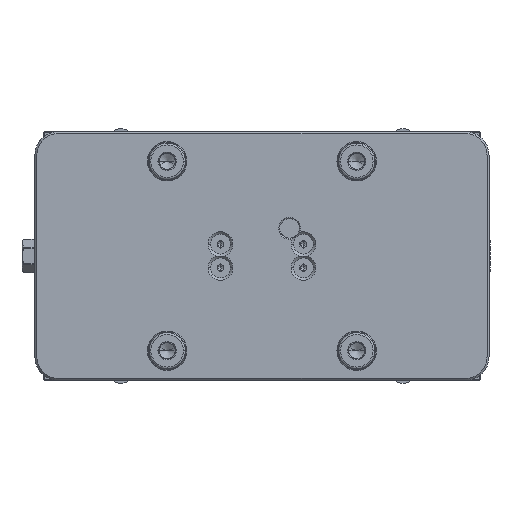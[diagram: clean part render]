
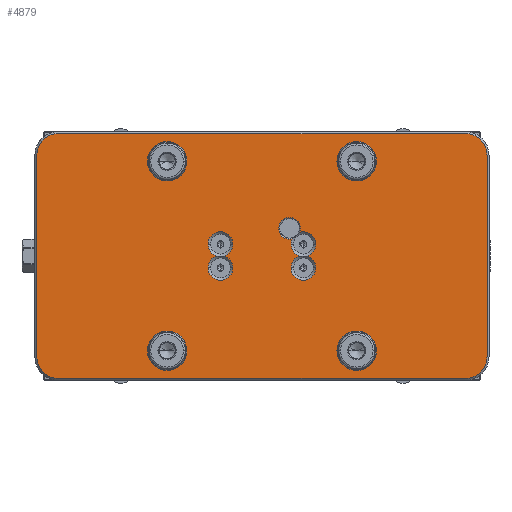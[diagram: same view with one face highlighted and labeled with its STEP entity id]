
A CAD part, front view. The second image highlights one B-rep face of the part: STEP entity #4879.
In plain terms, the highlighted planar face has unit normal (0, -1, 0).
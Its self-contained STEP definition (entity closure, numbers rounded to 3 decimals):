
#2=CARTESIAN_POINT('',(48.,0.,-48.));
#3=DIRECTION('',(0.,1.,0.));
#4=DIRECTION('',(1.,0.,0.));
#5=AXIS2_PLACEMENT_3D('',#2,#3,#4);
#7=CARTESIAN_POINT('',(48.,0.,-48.));
#8=DIRECTION('',(0.,1.,0.));
#9=DIRECTION('',(-1.,0.,0.));
#10=AXIS2_PLACEMENT_3D('',#7,#8,#9);
#12=CARTESIAN_POINT('',(48.,0.,48.));
#13=DIRECTION('',(0.,1.,0.));
#14=DIRECTION('',(1.,0.,0.));
#15=AXIS2_PLACEMENT_3D('',#12,#13,#14);
#17=CARTESIAN_POINT('',(48.,0.,48.));
#18=DIRECTION('',(0.,1.,0.));
#19=DIRECTION('',(-1.,0.,0.));
#20=AXIS2_PLACEMENT_3D('',#17,#18,#19);
#22=CARTESIAN_POINT('',(-48.,0.,-48.));
#23=DIRECTION('',(0.,1.,0.));
#24=DIRECTION('',(1.,0.,0.));
#25=AXIS2_PLACEMENT_3D('',#22,#23,#24);
#27=CARTESIAN_POINT('',(-48.,0.,-48.));
#28=DIRECTION('',(0.,1.,0.));
#29=DIRECTION('',(-1.,0.,0.));
#30=AXIS2_PLACEMENT_3D('',#27,#28,#29);
#32=CARTESIAN_POINT('',(-48.,0.,48.));
#33=DIRECTION('',(0.,1.,0.));
#34=DIRECTION('',(1.,0.,0.));
#35=AXIS2_PLACEMENT_3D('',#32,#33,#34);
#37=CARTESIAN_POINT('',(-48.,0.,48.));
#38=DIRECTION('',(0.,1.,0.));
#39=DIRECTION('',(-1.,0.,0.));
#40=AXIS2_PLACEMENT_3D('',#37,#38,#39);
#42=CARTESIAN_POINT('',(-21.,0.,-6.));
#43=DIRECTION('',(0.,-1.,0.));
#44=DIRECTION('',(-1.,0.,0.));
#45=AXIS2_PLACEMENT_3D('',#42,#43,#44);
#47=CARTESIAN_POINT('',(-21.,0.,-6.));
#48=DIRECTION('',(0.,-1.,0.));
#49=DIRECTION('',(1.,0.,0.));
#50=AXIS2_PLACEMENT_3D('',#47,#48,#49);
#52=CARTESIAN_POINT('',(-21.,0.,6.));
#53=DIRECTION('',(0.,-1.,0.));
#54=DIRECTION('',(0.28,0.,-0.96));
#55=AXIS2_PLACEMENT_3D('',#52,#53,#54);
#57=CARTESIAN_POINT('',(-21.,0.,6.));
#58=DIRECTION('',(0.,-1.,0.));
#59=DIRECTION('',(1.,0.,0.));
#60=AXIS2_PLACEMENT_3D('',#57,#58,#59);
#62=CARTESIAN_POINT('',(-21.,0.,6.));
#63=DIRECTION('',(0.,-1.,0.));
#64=DIRECTION('',(-1.,0.,0.));
#65=AXIS2_PLACEMENT_3D('',#62,#63,#64);
#67=CARTESIAN_POINT('',(-21.,0.,-6.));
#68=DIRECTION('',(0.,-1.,0.));
#69=DIRECTION('',(-0.28,0.,0.96));
#70=AXIS2_PLACEMENT_3D('',#67,#68,#69);
#72=CARTESIAN_POINT('',(21.,0.,-6.));
#73=DIRECTION('',(0.,-1.,0.));
#74=DIRECTION('',(-1.,0.,0.));
#75=AXIS2_PLACEMENT_3D('',#72,#73,#74);
#77=CARTESIAN_POINT('',(21.,0.,-6.));
#78=DIRECTION('',(0.,-1.,0.));
#79=DIRECTION('',(1.,0.,0.));
#80=AXIS2_PLACEMENT_3D('',#77,#78,#79);
#82=CARTESIAN_POINT('',(21.,0.,6.));
#83=DIRECTION('',(0.,-1.,0.));
#84=DIRECTION('',(0.28,0.,-0.96));
#85=AXIS2_PLACEMENT_3D('',#82,#83,#84);
#87=CARTESIAN_POINT('',(21.,0.,6.));
#88=DIRECTION('',(0.,-1.,0.));
#89=DIRECTION('',(1.,0.,0.));
#90=AXIS2_PLACEMENT_3D('',#87,#88,#89);
#92=CARTESIAN_POINT('',(21.,0.,6.));
#93=DIRECTION('',(0.,-1.,0.));
#94=DIRECTION('',(-0.904,0.,0.427));
#95=AXIS2_PLACEMENT_3D('',#92,#93,#94);
#97=CARTESIAN_POINT('',(21.,0.,6.));
#98=DIRECTION('',(0.,-1.,0.));
#99=DIRECTION('',(-1.,0.,0.));
#100=AXIS2_PLACEMENT_3D('',#97,#98,#99);
#102=CARTESIAN_POINT('',(21.,0.,-6.));
#103=DIRECTION('',(0.,-1.,0.));
#104=DIRECTION('',(-0.28,0.,0.96));
#105=AXIS2_PLACEMENT_3D('',#102,#103,#104);
#107=DIRECTION('',(0.,0.,-1.));
#108=VECTOR('',#107,102.);
#109=CARTESIAN_POINT('',(-114.,0.,
51.));
#110=LINE('',#109,#108);
#111=CARTESIAN_POINT('',(-103.,0.,51.));
#112=DIRECTION('',(0.,-1.,0.));
#113=DIRECTION('',(0.,0.,1.));
#114=AXIS2_PLACEMENT_3D('',#111,#112,#113);
#116=DIRECTION('',(-1.,0.,0.));
#117=VECTOR('',#116,206.);
#118=CARTESIAN_POINT('',(103.,0.,62.));
#119=LINE('',#118,#117);
#120=CARTESIAN_POINT('',(103.,0.,51.));
#121=DIRECTION('',(0.,-1.,0.));
#122=DIRECTION('',(1.,0.,0.));
#123=AXIS2_PLACEMENT_3D('',#120,#121,#122);
#125=DIRECTION('',(0.,0.,1.));
#126=VECTOR('',#125,102.);
#127=CARTESIAN_POINT('',(114.,0.,
-51.));
#128=LINE('',#127,#126);
#129=CARTESIAN_POINT('',(103.,0.,-51.));
#130=DIRECTION('',(0.,-1.,0.));
#131=DIRECTION('',(0.,0.,-1.));
#132=AXIS2_PLACEMENT_3D('',#129,#130,#131);
#134=DIRECTION('',(1.,0.,0.));
#135=VECTOR('',#134,206.);
#136=CARTESIAN_POINT('',(-103.,0.,
-62.));
#137=LINE('',#136,#135);
#138=CARTESIAN_POINT('',(-103.,0.,-51.));
#139=DIRECTION('',(0.,-1.,0.));
#140=DIRECTION('',(-1.,0.,0.));
#141=AXIS2_PLACEMENT_3D('',#138,#139,#140);
#692=CARTESIAN_POINT('',(14.,0.,14.));
#693=DIRECTION('',(0.,1.,0.));
#694=DIRECTION('',(0.245,0.,-0.97));
#695=AXIS2_PLACEMENT_3D('',#692,#693,#694);
#3854=CARTESIAN_POINT('',(56.5,0.,-48.));
#3855=CARTESIAN_POINT('',(39.5,0.,-48.));
#3856=VERTEX_POINT('',#3854);
#3857=VERTEX_POINT('',#3855);
#3862=CARTESIAN_POINT('',(56.5,0.,48.));
#3863=CARTESIAN_POINT('',(39.5,0.,48.));
#3864=VERTEX_POINT('',#3862);
#3865=VERTEX_POINT('',#3863);
#3870=CARTESIAN_POINT('',(-39.5,0.,-48.));
#3871=CARTESIAN_POINT('',(-56.5,0.,-48.));
#3872=VERTEX_POINT('',#3870);
#3873=VERTEX_POINT('',#3871);
#3878=CARTESIAN_POINT('',(-39.5,0.,48.));
#3879=CARTESIAN_POINT('',(-56.5,0.,48.));
#3880=VERTEX_POINT('',#3878);
#3881=VERTEX_POINT('',#3879);
#4082=CARTESIAN_POINT('',(-14.75,0.,6.));
#4083=CARTESIAN_POINT('',(-27.25,0.,6.));
#4084=VERTEX_POINT('',#4082);
#4085=VERTEX_POINT('',#4083);
#4090=CARTESIAN_POINT('',(27.25,0.,6.));
#4091=CARTESIAN_POINT('',(19.106,0.,11.956));
#4092=VERTEX_POINT('',#4090);
#4093=VERTEX_POINT('',#4091);
#4094=CARTESIAN_POINT('',(15.348,0.,8.668));
#4095=CARTESIAN_POINT('',(14.75,0.,6.));
#4096=VERTEX_POINT('',#4094);
#4097=VERTEX_POINT('',#4095);
#4104=CARTESIAN_POINT('',(-27.25,0.,-6.));
#4105=CARTESIAN_POINT('',(-14.75,0.,-6.));
#4106=VERTEX_POINT('',#4104);
#4107=VERTEX_POINT('',#4105);
#4108=CARTESIAN_POINT('',(-19.25,0.,0.));
#4109=VERTEX_POINT('',#4108);
#4110=CARTESIAN_POINT('',(-22.75,0.,0.));
#4111=VERTEX_POINT('',#4110);
#4116=CARTESIAN_POINT('',(14.75,0.,-6.));
#4117=CARTESIAN_POINT('',(27.25,0.,-6.));
#4118=VERTEX_POINT('',#4116);
#4119=VERTEX_POINT('',#4117);
#4120=CARTESIAN_POINT('',(22.75,0.,0.));
#4121=VERTEX_POINT('',#4120);
#4122=CARTESIAN_POINT('',(19.25,0.,0.));
#4123=VERTEX_POINT('',#4122);
#4674=CARTESIAN_POINT('',(-114.,0.,
51.));
#4675=CARTESIAN_POINT('',(-114.,0.,
-51.));
#4676=VERTEX_POINT('',#4674);
#4677=VERTEX_POINT('',#4675);
#4678=CARTESIAN_POINT('',(-103.,0.,62.));
#4679=VERTEX_POINT('',#4678);
#4682=CARTESIAN_POINT('',(103.,0.,
62.));
#4683=VERTEX_POINT('',#4682);
#4686=CARTESIAN_POINT('',(114.,0.,51.));
#4687=VERTEX_POINT('',#4686);
#4690=CARTESIAN_POINT('',(114.,0.,
-51.));
#4691=VERTEX_POINT('',#4690);
#4694=CARTESIAN_POINT('',(103.,0.,-62.));
#4695=VERTEX_POINT('',#4694);
#4698=CARTESIAN_POINT('',(-103.,0.,
-62.));
#4699=VERTEX_POINT('',#4698);
#4800=CARTESIAN_POINT('',(0.,0.,0.));
#4801=DIRECTION('',(0.,1.,0.));
#4802=DIRECTION('',(1.,0.,0.));
#4803=AXIS2_PLACEMENT_3D('',#4800,#4801,#4802);
#4804=PLANE('',#4803);
#4806=ORIENTED_EDGE('',*,*,#4805,.F.);
#4808=ORIENTED_EDGE('',*,*,#4807,.F.);
#4810=ORIENTED_EDGE('',*,*,#4809,.F.);
#4812=ORIENTED_EDGE('',*,*,#4811,.F.);
#4814=ORIENTED_EDGE('',*,*,#4813,.F.);
#4816=ORIENTED_EDGE('',*,*,#4815,.F.);
#4818=ORIENTED_EDGE('',*,*,#4817,.F.);
#4820=ORIENTED_EDGE('',*,*,#4819,.F.);
#4821=EDGE_LOOP('',(#4806,#4808,#4810,#4812,#4814,#4816,#4818,#4820));
#4822=FACE_OUTER_BOUND('',#4821,.F.);
#4824=ORIENTED_EDGE('',*,*,#4823,.F.);
#4826=ORIENTED_EDGE('',*,*,#4825,.F.);
#4827=EDGE_LOOP('',(#4824,#4826));
#4828=FACE_BOUND('',#4827,.F.);
#4830=ORIENTED_EDGE('',*,*,#4829,.F.);
#4832=ORIENTED_EDGE('',*,*,#4831,.F.);
#4833=EDGE_LOOP('',(#4830,#4832));
#4834=FACE_BOUND('',#4833,.F.);
#4836=ORIENTED_EDGE('',*,*,#4835,.F.);
#4838=ORIENTED_EDGE('',*,*,#4837,.F.);
#4839=EDGE_LOOP('',(#4836,#4838));
#4840=FACE_BOUND('',#4839,.F.);
#4842=ORIENTED_EDGE('',*,*,#4841,.T.);
#4844=ORIENTED_EDGE('',*,*,#4843,.T.);
#4846=ORIENTED_EDGE('',*,*,#4845,.T.);
#4848=ORIENTED_EDGE('',*,*,#4847,.T.);
#4850=ORIENTED_EDGE('',*,*,#4849,.T.);
#4852=ORIENTED_EDGE('',*,*,#4851,.T.);
#4853=EDGE_LOOP('',(#4842,#4844,#4846,#4848,#4850,#4852));
#4854=FACE_BOUND('',#4853,.F.);
#4856=ORIENTED_EDGE('',*,*,#4855,.T.);
#4858=ORIENTED_EDGE('',*,*,#4857,.T.);
#4860=ORIENTED_EDGE('',*,*,#4859,.T.);
#4862=ORIENTED_EDGE('',*,*,#4861,.T.);
#4864=ORIENTED_EDGE('',*,*,#4863,.F.);
#4866=ORIENTED_EDGE('',*,*,#4865,.T.);
#4868=ORIENTED_EDGE('',*,*,#4867,.T.);
#4870=ORIENTED_EDGE('',*,*,#4869,.T.);
#4871=EDGE_LOOP('',(#4856,#4858,#4860,#4862,#4864,#4866,#4868,#4870));
#4872=FACE_BOUND('',#4871,.F.);
#4874=ORIENTED_EDGE('',*,*,#4873,.F.);
#4876=ORIENTED_EDGE('',*,*,#4875,.F.);
#4877=EDGE_LOOP('',(#4874,#4876));
#4878=FACE_BOUND('',#4877,.F.);
#6=CIRCLE('',#5,8.5);
#11=CIRCLE('',#10,8.5);
#16=CIRCLE('',#15,8.5);
#21=CIRCLE('',#20,8.5);
#26=CIRCLE('',#25,8.5);
#31=CIRCLE('',#30,8.5);
#36=CIRCLE('',#35,8.5);
#41=CIRCLE('',#40,8.5);
#46=CIRCLE('',#45,6.25);
#51=CIRCLE('',#50,6.25);
#56=CIRCLE('',#55,6.25);
#61=CIRCLE('',#60,6.25);
#66=CIRCLE('',#65,6.25);
#71=CIRCLE('',#70,6.25);
#76=CIRCLE('',#75,6.25);
#81=CIRCLE('',#80,6.25);
#86=CIRCLE('',#85,6.25);
#91=CIRCLE('',#90,6.25);
#96=CIRCLE('',#95,6.25);
#101=CIRCLE('',#100,6.25);
#106=CIRCLE('',#105,6.25);
#115=CIRCLE('',#114,11.);
#124=CIRCLE('',#123,11.);
#133=CIRCLE('',#132,11.);
#142=CIRCLE('',#141,11.);
#696=CIRCLE('',#695,5.5);
#4805=EDGE_CURVE('',#4676,#4677,#110,.T.);
#4807=EDGE_CURVE('',#4679,#4676,#115,.T.);
#4809=EDGE_CURVE('',#4683,#4679,#119,.T.);
#4811=EDGE_CURVE('',#4687,#4683,#124,.T.);
#4813=EDGE_CURVE('',#4691,#4687,#128,.T.);
#4815=EDGE_CURVE('',#4695,#4691,#133,.T.);
#4817=EDGE_CURVE('',#4699,#4695,#137,.T.);
#4819=EDGE_CURVE('',#4677,#4699,#142,.T.);
#4823=EDGE_CURVE('',#3864,#3865,#16,.T.);
#4825=EDGE_CURVE('',#3865,#3864,#21,.T.);
#4829=EDGE_CURVE('',#3872,#3873,#26,.T.);
#4831=EDGE_CURVE('',#3873,#3872,#31,.T.);
#4835=EDGE_CURVE('',#3880,#3881,#36,.T.);
#4837=EDGE_CURVE('',#3881,#3880,#41,.T.);
#4841=EDGE_CURVE('',#4106,#4107,#46,.T.);
#4843=EDGE_CURVE('',#4107,#4109,#51,.T.);
#4845=EDGE_CURVE('',#4109,#4084,#56,.T.);
#4847=EDGE_CURVE('',#4084,#4085,#61,.T.);
#4849=EDGE_CURVE('',#4085,#4111,#66,.T.);
#4851=EDGE_CURVE('',#4111,#4106,#71,.T.);
#4855=EDGE_CURVE('',#4118,#4119,#76,.T.);
#4857=EDGE_CURVE('',#4119,#4121,#81,.T.);
#4859=EDGE_CURVE('',#4121,#4092,#86,.T.);
#4861=EDGE_CURVE('',#4092,#4093,#91,.T.);
#4863=EDGE_CURVE('',#4096,#4093,#696,.T.);
#4865=EDGE_CURVE('',#4096,#4097,#96,.T.);
#4867=EDGE_CURVE('',#4097,#4123,#101,.T.);
#4869=EDGE_CURVE('',#4123,#4118,#106,.T.);
#4873=EDGE_CURVE('',#3856,#3857,#6,.T.);
#4875=EDGE_CURVE('',#3857,#3856,#11,.T.);
#4879=ADVANCED_FACE('',(#4822,#4828,#4834,#4840,#4854,#4872,#4878),#4804,.F.);
